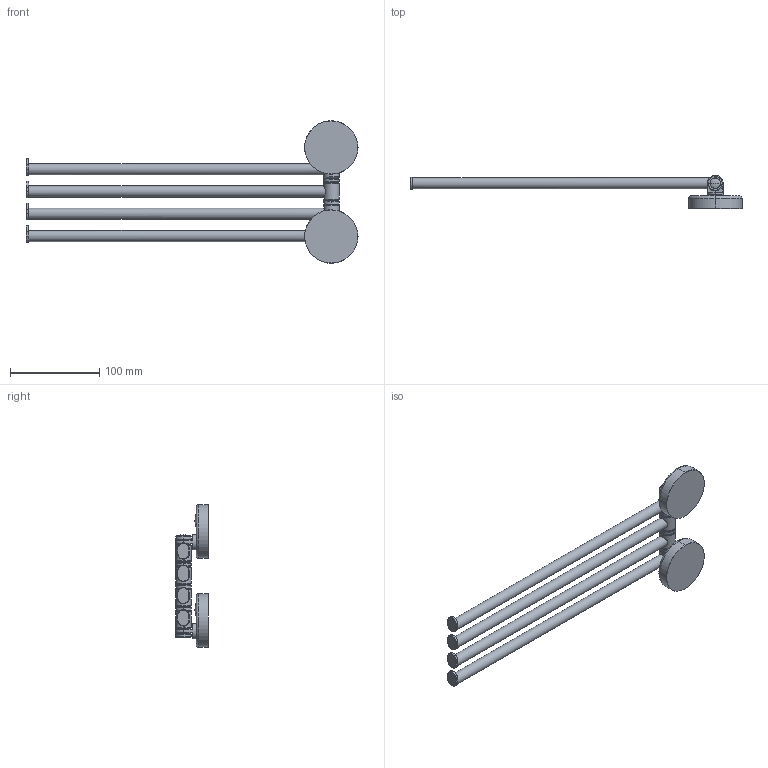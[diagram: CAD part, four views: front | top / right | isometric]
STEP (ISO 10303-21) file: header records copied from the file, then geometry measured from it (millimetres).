
FILE_DESCRIPTION(('THIS FILE CONTAINS SOME STEP INSTANCES'),'1');
FILE_NAME('ell_046.stp','2015-12-11T12:44:05',('UNDEFINED'),('UNDEFINED'),'T-FLEX CAD STEP converter','T-FLEX CAD','');
FILE_SCHEMA(('CONFIG_CONTROL_DESIGN'));
Length unit declared in the file: metre
Products named in the file (8): 3D 鐨飹懤艜_48; 3D 鐨飹懤艜_7; 3D 鐨飹懤艜_3; 3D 鐨飹懤艜_28; 髓礤轫 爨耨桠_59; 3D 鐨飹懤艜_56; 3D 鐨飹懤艜_40
Bounding box: 373 x 37 x 160 mm (x, y, z)
Volume: 271183.7 mm3; surface area: 80459.5 mm2
Topology: 8 solids, 8 shells, 335 faces, 734 edges, 429 vertices
Faces by surface type: cone 108, cylinder 78, plane 73, torus 40, bspline 30, sphere 6
Entity records: 18009 total; most frequent: CARTESIAN_POINT 11419, ORIENTED_EDGE 1456, DIRECTION 1210, EDGE_CURVE 728, AXIS2_PLACEMENT_3D 468, VERTEX_POINT 429, EDGE_LOOP 355, ADVANCED_FACE 335
